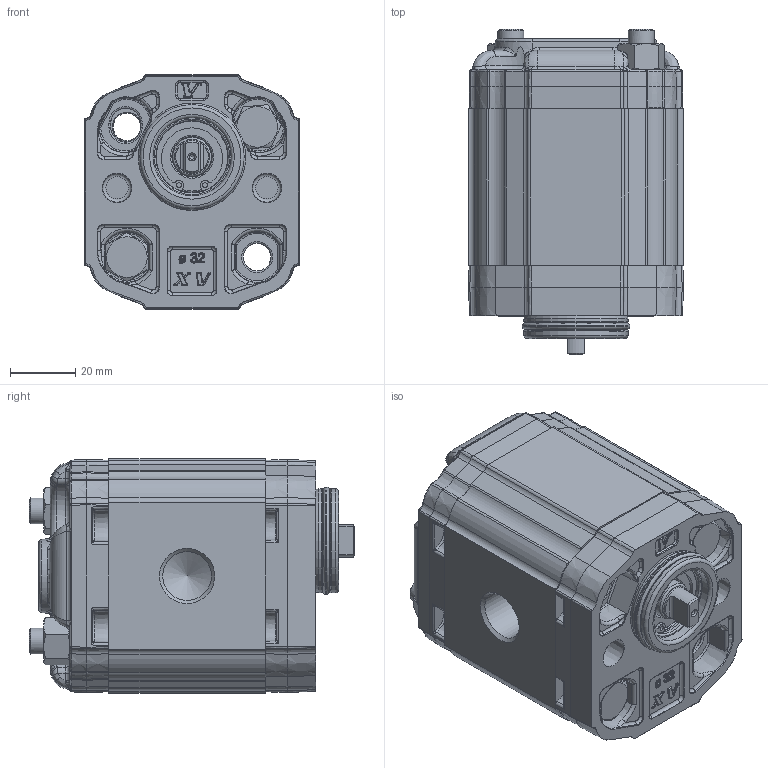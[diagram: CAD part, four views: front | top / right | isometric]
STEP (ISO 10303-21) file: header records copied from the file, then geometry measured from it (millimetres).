
FILE_DESCRIPTION(/* description */ ('Unknown'),/* implementation_level */ '2;1');
FILE_NAME(/* name */ 'X1U2151DBBA',/* time_stamp */ '2026-05-26T18:45:28+02:00',/* author */ ('Unknown'),/* organization */ ('Unknown'),/* preprocessor_version */ 'ST-DEVELOPER v16.7',/* originating_system */ 'Solid Edge',/* authorisation */ 'Unknown');
FILE_SCHEMA (('AUTOMOTIVE_DESIGN {1 0 10303 214 3 1 1}'));
Products named in the file (5): X1U2151DBBA; X1U51; 1D; X1BBH48; XU140-A
Assembly tree (4 placements, depth 2):
  X1U2151DBBA
    X1U51
    1D
    X1BBH48
    XU140-A
Bounding box: 66 x 99.99 x 72 mm (x, y, z)
Volume: 315446.3 mm3; surface area: 64601.5 mm2
Topology: 4 solids, 5 shells, 2562 faces, 6072 edges, 3565 vertices
Faces by surface type: cylinder 761, bspline 645, plane 555, torus 277, cone 239, sphere 85
Full cylindrical faces by diameter (mm): 1.447 x2, 1.5 x1, 8 x6, 8.5 x3, 9 x2, 10 x1, 10.5 x2, 11.965 x1, 12 x1, 12.4 x1, 14.95 x2, 15.115 x1, 17.147 x1, 19 x1, 20 x1, 21.8 x1, 22 x2, 22.2 x1, 23 x1, 24 x1, 29.4 x2, 32 x1, 32.96 x1
Entity records: 138451 total; most frequent: CARTESIAN_POINT 65528, ORIENTED_EDGE 11700, DIRECTION 10990, EDGE_CURVE 5850, AXIS2_PLACEMENT_3D 4545, VERTEX_POINT 3512, FACE_BOUND 2796, EDGE_LOOP 2792
